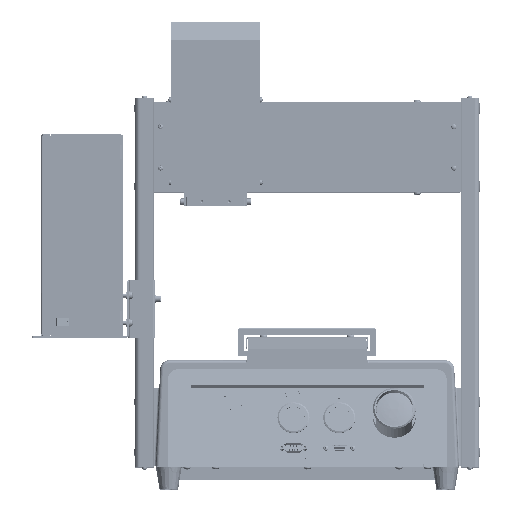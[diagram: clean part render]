
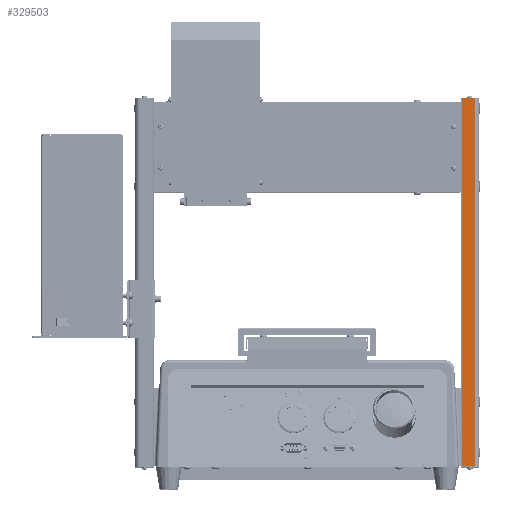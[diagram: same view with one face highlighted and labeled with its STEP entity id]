
A CAD part, top view. The second image highlights one B-rep face of the part: STEP entity #329503.
In plain terms, the highlighted planar face has unit normal (0, 0, 1).
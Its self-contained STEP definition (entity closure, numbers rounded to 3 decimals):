
#205519 = PLANE('',#205520);
#205520 = AXIS2_PLACEMENT_3D('',#205521,#205522,#205523);
#205521 = CARTESIAN_POINT('',(401.735,196.831,
    413.684));
#205522 = DIRECTION('',(0.,1.,0.));
#205523 = DIRECTION('',(0.,0.,1.));
#208068 = PLANE('',#208069);
#208069 = AXIS2_PLACEMENT_3D('',#208070,#208071,#208072);
#208070 = CARTESIAN_POINT('',(419.235,598.331,
    65.184));
#208071 = DIRECTION('',(0.,1.,0.));
#208072 = DIRECTION('',(0.,0.,-1.));
#247965 = VERTEX_POINT('',#247966);
#247966 = CARTESIAN_POINT('',(405.235,598.331,
    162.184));
#247981 = CYLINDRICAL_SURFACE('',#247982,1.);
#247982 = AXIS2_PLACEMENT_3D('',#247983,#247984,#247985);
#247983 = CARTESIAN_POINT('',(405.235,596.831,
    161.184));
#247984 = DIRECTION('',(0.,-1.,0.));
#247985 = DIRECTION('',(1.,0.,0.));
#247993 = EDGE_CURVE('',#247965,#247994,#247996,.T.);
#247994 = VERTEX_POINT('',#247995);
#247995 = CARTESIAN_POINT('',(419.235,598.331,
    162.184));
#247996 = SURFACE_CURVE('',#247997,(#248001,#248008),.PCURVE_S1.);
#247997 = LINE('',#247998,#247999);
#247998 = CARTESIAN_POINT('',(419.235,598.331,
    162.184));
#247999 = VECTOR('',#248000,1.);
#248000 = DIRECTION('',(1.,0.,0.));
#248001 = PCURVE('',#208068,#248002);
#248002 = DEFINITIONAL_REPRESENTATION('',(#248003),#248007);
#248003 = LINE('',#248004,#248005);
#248004 = CARTESIAN_POINT('',(-97.,0.));
#248005 = VECTOR('',#248006,1.);
#248006 = DIRECTION('',(0.,-1.));
#248007 = ( GEOMETRIC_REPRESENTATION_CONTEXT(2) 
PARAMETRIC_REPRESENTATION_CONTEXT() REPRESENTATION_CONTEXT('2D SPACE',''
  ) );
#248008 = PCURVE('',#248009,#248014);
#248009 = PLANE('',#248010);
#248010 = AXIS2_PLACEMENT_3D('',#248011,#248012,#248013);
#248011 = CARTESIAN_POINT('',(404.235,596.831,
    162.184));
#248012 = DIRECTION('',(0.,0.,-1.));
#248013 = DIRECTION('',(-1.,0.,0.));
#248014 = DEFINITIONAL_REPRESENTATION('',(#248015),#248019);
#248015 = LINE('',#248016,#248017);
#248016 = CARTESIAN_POINT('',(-15.,1.5));
#248017 = VECTOR('',#248018,1.);
#248018 = DIRECTION('',(-1.,0.));
#248019 = ( GEOMETRIC_REPRESENTATION_CONTEXT(2) 
PARAMETRIC_REPRESENTATION_CONTEXT() REPRESENTATION_CONTEXT('2D SPACE',''
  ) );
#248038 = CYLINDRICAL_SURFACE('',#248039,5.);
#248039 = AXIS2_PLACEMENT_3D('',#248040,#248041,#248042);
#248040 = CARTESIAN_POINT('',(419.235,596.831,
    157.184));
#248041 = DIRECTION('',(0.,-1.,0.));
#248042 = DIRECTION('',(1.,0.,0.));
#329458 = VERTEX_POINT('',#329459);
#329459 = CARTESIAN_POINT('',(419.235,196.831,
    162.184));
#329483 = EDGE_CURVE('',#247994,#329458,#329484,.T.);
#329484 = SURFACE_CURVE('',#329485,(#329489,#329496),.PCURVE_S1.);
#329485 = LINE('',#329486,#329487);
#329486 = CARTESIAN_POINT('',(419.235,596.831,
    162.184));
#329487 = VECTOR('',#329488,1.);
#329488 = DIRECTION('',(0.,-1.,0.));
#329489 = PCURVE('',#248038,#329490);
#329490 = DEFINITIONAL_REPRESENTATION('',(#329491),#329495);
#329491 = LINE('',#329492,#329493);
#329492 = CARTESIAN_POINT('',(1.571,0.));
#329493 = VECTOR('',#329494,1.);
#329494 = DIRECTION('',(0.,1.));
#329495 = ( GEOMETRIC_REPRESENTATION_CONTEXT(2) 
PARAMETRIC_REPRESENTATION_CONTEXT() REPRESENTATION_CONTEXT('2D SPACE',''
  ) );
#329496 = PCURVE('',#248009,#329497);
#329497 = DEFINITIONAL_REPRESENTATION('',(#329498),#329502);
#329498 = LINE('',#329499,#329500);
#329499 = CARTESIAN_POINT('',(-15.,0.));
#329500 = VECTOR('',#329501,1.);
#329501 = DIRECTION('',(0.,-1.));
#329502 = ( GEOMETRIC_REPRESENTATION_CONTEXT(2) 
PARAMETRIC_REPRESENTATION_CONTEXT() REPRESENTATION_CONTEXT('2D SPACE',''
  ) );
#329503 = ADVANCED_FACE('',(#329504),#248009,.F.);
#329504 = FACE_BOUND('',#329505,.T.);
#329505 = EDGE_LOOP('',(#329506,#329529,#329530,#329531));
#329506 = ORIENTED_EDGE('',*,*,#329507,.T.);
#329507 = EDGE_CURVE('',#329508,#329458,#329510,.T.);
#329508 = VERTEX_POINT('',#329509);
#329509 = CARTESIAN_POINT('',(405.235,196.831,
    162.184));
#329510 = SURFACE_CURVE('',#329511,(#329515,#329522),.PCURVE_S1.);
#329511 = LINE('',#329512,#329513);
#329512 = CARTESIAN_POINT('',(404.235,196.831,
    162.184));
#329513 = VECTOR('',#329514,1.);
#329514 = DIRECTION('',(1.,0.,0.));
#329515 = PCURVE('',#248009,#329516);
#329516 = DEFINITIONAL_REPRESENTATION('',(#329517),#329521);
#329517 = LINE('',#329518,#329519);
#329518 = CARTESIAN_POINT('',(0.,-400.));
#329519 = VECTOR('',#329520,1.);
#329520 = DIRECTION('',(-1.,0.));
#329521 = ( GEOMETRIC_REPRESENTATION_CONTEXT(2) 
PARAMETRIC_REPRESENTATION_CONTEXT() REPRESENTATION_CONTEXT('2D SPACE',''
  ) );
#329522 = PCURVE('',#205519,#329523);
#329523 = DEFINITIONAL_REPRESENTATION('',(#329524),#329528);
#329524 = LINE('',#329525,#329526);
#329525 = CARTESIAN_POINT('',(-251.5,2.5));
#329526 = VECTOR('',#329527,1.);
#329527 = DIRECTION('',(0.,1.));
#329528 = ( GEOMETRIC_REPRESENTATION_CONTEXT(2) 
PARAMETRIC_REPRESENTATION_CONTEXT() REPRESENTATION_CONTEXT('2D SPACE',''
  ) );
#329529 = ORIENTED_EDGE('',*,*,#329483,.F.);
#329530 = ORIENTED_EDGE('',*,*,#247993,.F.);
#329531 = ORIENTED_EDGE('',*,*,#329532,.T.);
#329532 = EDGE_CURVE('',#247965,#329508,#329533,.T.);
#329533 = SURFACE_CURVE('',#329534,(#329538,#329545),.PCURVE_S1.);
#329534 = LINE('',#329535,#329536);
#329535 = CARTESIAN_POINT('',(405.235,596.831,
    162.184));
#329536 = VECTOR('',#329537,1.);
#329537 = DIRECTION('',(0.,-1.,0.));
#329538 = PCURVE('',#248009,#329539);
#329539 = DEFINITIONAL_REPRESENTATION('',(#329540),#329544);
#329540 = LINE('',#329541,#329542);
#329541 = CARTESIAN_POINT('',(-1.,0.));
#329542 = VECTOR('',#329543,1.);
#329543 = DIRECTION('',(0.,-1.));
#329544 = ( GEOMETRIC_REPRESENTATION_CONTEXT(2) 
PARAMETRIC_REPRESENTATION_CONTEXT() REPRESENTATION_CONTEXT('2D SPACE',''
  ) );
#329545 = PCURVE('',#247981,#329546);
#329546 = DEFINITIONAL_REPRESENTATION('',(#329547),#329551);
#329547 = LINE('',#329548,#329549);
#329548 = CARTESIAN_POINT('',(1.571,0.));
#329549 = VECTOR('',#329550,1.);
#329550 = DIRECTION('',(0.,1.));
#329551 = ( GEOMETRIC_REPRESENTATION_CONTEXT(2) 
PARAMETRIC_REPRESENTATION_CONTEXT() REPRESENTATION_CONTEXT('2D SPACE',''
  ) );
